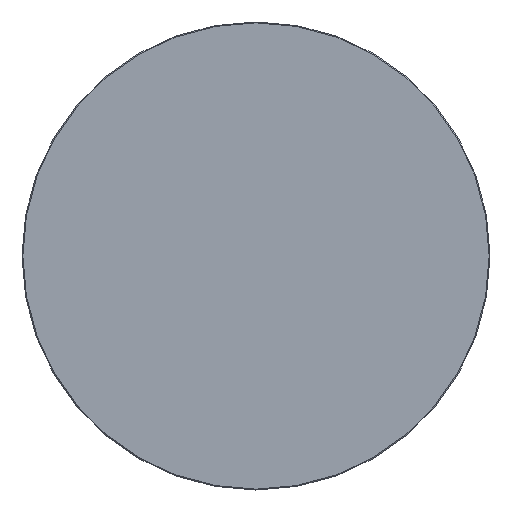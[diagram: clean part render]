
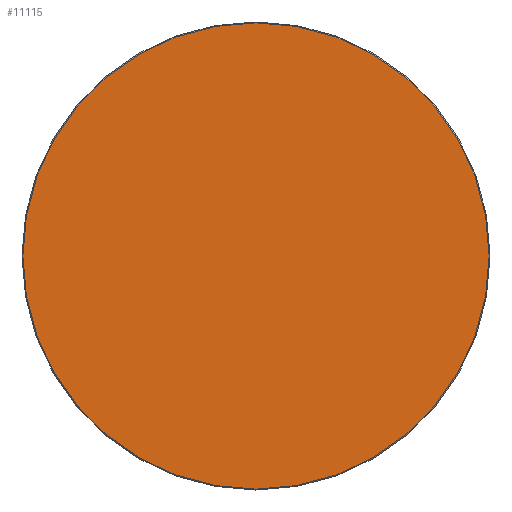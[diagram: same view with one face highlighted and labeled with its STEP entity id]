
A CAD part, top view. The second image highlights one B-rep face of the part: STEP entity #11115.
In plain terms, the highlighted planar face has unit normal (0, 0, 1).
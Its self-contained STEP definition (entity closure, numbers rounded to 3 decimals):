
#11040=CARTESIAN_POINT('',(0.,0.,20.));
#11041=DIRECTION('',(1.,0.,0.));
#11042=DIRECTION('',(0.,0.,1.));
#11043=AXIS2_PLACEMENT_3D('',#11040,#11042,#11041);
#11044=PLANE('',#11043);
#11045=CARTESIAN_POINT('',(-0.5,-398.5,20.));
#11046=VERTEX_POINT('',#11045);
#11047=CARTESIAN_POINT('',(0.5,-398.5,20.));
#11048=VERTEX_POINT('',#11047);
#11049=CARTESIAN_POINT('',(-0.5,-398.5,20.));
#11050=DIRECTION('',(1.,0.,0.));
#11051=VECTOR('',#11050,1.);
#11052=LINE('',#11049,#11051);
#11053=EDGE_CURVE('',#11046,#11048,#11052,.T.);
#11054=ORIENTED_EDGE('E105',*,*,#11053,.T.);
#11055=CARTESIAN_POINT('',(398.5,-0.5,20.));
#11056=VERTEX_POINT('',#11055);
#11057=CARTESIAN_POINT('',(0.5,-0.5,20.));
#11058=DIRECTION('',(0.,-1.,0.));
#11059=DIRECTION('',(0.,0.,1.));
#11060=AXIS2_PLACEMENT_3D('',#11057,#11059,#11058);
#11061=CIRCLE('',#11060,398.);
#11062=EDGE_CURVE('',#11048,#11056,#11061,.T.);
#11063=ORIENTED_EDGE('E107',*,*,#11062,.T.);
#11064=CARTESIAN_POINT('',(398.5,0.5,20.));
#11065=VERTEX_POINT('',#11064);
#11066=CARTESIAN_POINT('',(398.5,-0.5,20.));
#11067=DIRECTION('',(0.,1.,0.));
#11068=VECTOR('',#11067,1.);
#11069=LINE('',#11066,#11068);
#11070=EDGE_CURVE('',#11056,#11065,#11069,.T.);
#11071=ORIENTED_EDGE('E109',*,*,#11070,.T.);
#11072=CARTESIAN_POINT('',(0.5,398.5,20.));
#11073=VERTEX_POINT('',#11072);
#11074=CARTESIAN_POINT('',(0.5,0.5,20.));
#11075=DIRECTION('',(1.,0.,0.));
#11076=DIRECTION('',(0.,0.,1.));
#11077=AXIS2_PLACEMENT_3D('',#11074,#11076,#11075);
#11078=CIRCLE('',#11077,398.);
#11079=EDGE_CURVE('',#11065,#11073,#11078,.T.);
#11080=ORIENTED_EDGE('E111',*,*,#11079,.T.);
#11081=CARTESIAN_POINT('',(-0.5,398.5,20.));
#11082=VERTEX_POINT('',#11081);
#11083=CARTESIAN_POINT('',(0.5,398.5,20.));
#11084=DIRECTION('',(-1.,0.,0.));
#11085=VECTOR('',#11084,1.);
#11086=LINE('',#11083,#11085);
#11087=EDGE_CURVE('',#11073,#11082,#11086,.T.);
#11088=ORIENTED_EDGE('E113',*,*,#11087,.T.);
#11089=CARTESIAN_POINT('',(-398.5,0.5,20.));
#11090=VERTEX_POINT('',#11089);
#11091=CARTESIAN_POINT('',(-0.5,0.5,20.));
#11092=DIRECTION('',(0.,1.,0.));
#11093=DIRECTION('',(0.,0.,1.));
#11094=AXIS2_PLACEMENT_3D('',#11091,#11093,#11092);
#11095=CIRCLE('',#11094,398.);
#11096=EDGE_CURVE('',#11082,#11090,#11095,.T.);
#11097=ORIENTED_EDGE('E115',*,*,#11096,.T.);
#11098=CARTESIAN_POINT('',(-398.5,-0.5,20.));
#11099=VERTEX_POINT('',#11098);
#11100=CARTESIAN_POINT('',(-398.5,0.5,20.));
#11101=DIRECTION('',(0.,-1.,0.));
#11102=VECTOR('',#11101,1.);
#11103=LINE('',#11100,#11102);
#11104=EDGE_CURVE('',#11090,#11099,#11103,.T.);
#11105=ORIENTED_EDGE('E117',*,*,#11104,.T.);
#11106=CARTESIAN_POINT('',(-0.5,-0.5,20.));
#11107=DIRECTION('',(-1.,0.,0.));
#11108=DIRECTION('',(-0.,0.,1.));
#11109=AXIS2_PLACEMENT_3D('',#11106,#11108,#11107);
#11110=CIRCLE('',#11109,398.);
#11111=EDGE_CURVE('',#11099,#11046,#11110,.T.);
#11112=ORIENTED_EDGE('E119',*,*,#11111,.T.);
#11113=EDGE_LOOP('',(#11054,#11063,#11071,#11080,#11088,#11097,#11105,#11112));
#11114=FACE_OUTER_BOUND('',#11113,.T.);
#11115=ADVANCED_FACE('F2',(#11114),#11044,.T.);
